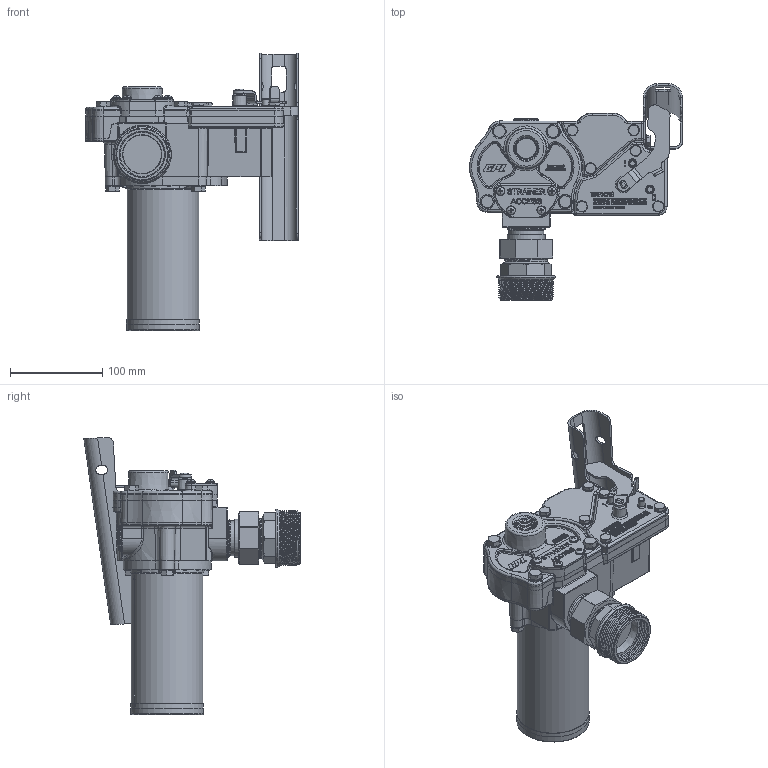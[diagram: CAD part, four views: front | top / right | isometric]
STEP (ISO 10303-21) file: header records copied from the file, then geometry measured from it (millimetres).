
FILE_DESCRIPTION(/* description */ (''),/* implementation_level */ '2;1');
FILE_NAME(/* name */ 'C:\Vault Projects\GPI Eng\New Projects\DHarris\Website model updates\STEP\M-240S-PO.stp',/* time_stamp */ '2022-07-19T13:20:26-05:00',/* author */ ('gdanhar'),/* organization */ (''),/* preprocessor_version */ 'ST-DEVELOPER v18.1',/* originating_system */ 'Autodesk Inventor 2022',/* authorisation */ '');
FILE_SCHEMA (('AUTOMOTIVE_DESIGN { 1 0 10303 214 3 1 1 }'));
Length unit declared in the file: inch
Products named in the file (1): M-240S-PO
Bounding box: 231.19 x 234.84 x 300.82 mm (x, y, z)
Volume: 2263070.4 mm3; surface area: 260060.6 mm2
Topology: 1 solids, 22 shells, 5209 faces, 13569 edges, 8587 vertices
Faces by surface type: plane 2386, cylinder 1160, bspline 966, torus 352, cone 304, sphere 41
Full cylindrical faces by diameter (mm): 1.383 x1, 1.542 x1, 2.184 x4, 3.048 x1, 3.962 x4, 4.826 x4, 5.105 x2, 5.207 x4, 5.728 x1, 6.299 x1, 6.35 x11, 6.477 x4, 6.54 x1, 6.604 x2, 6.985 x3, 7.137 x2, 7.938 x7, 8.591 x1, 9.474 x4, 9.728 x4, 11.125 x6, 11.989 x6, 12.7 x2, 15.494 x7, 19.007 x1, 19.05 x1, 37.846 x1, 37.919 x1, 41.25 x1, 42.012 x1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
Entity records: 194432 total; most frequent: CARTESIAN_POINT 67402, ORIENTED_EDGE 26988, DIRECTION 22899, EDGE_CURVE 13494, VERTEX_POINT 8565, AXIS2_PLACEMENT_3D 7875, LINE 7149, VECTOR 7149
